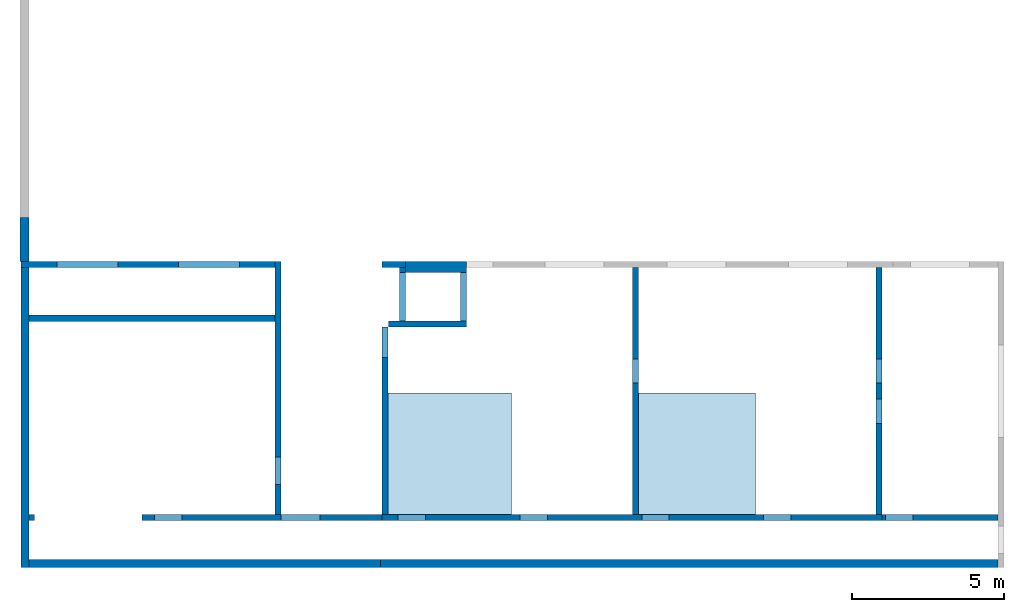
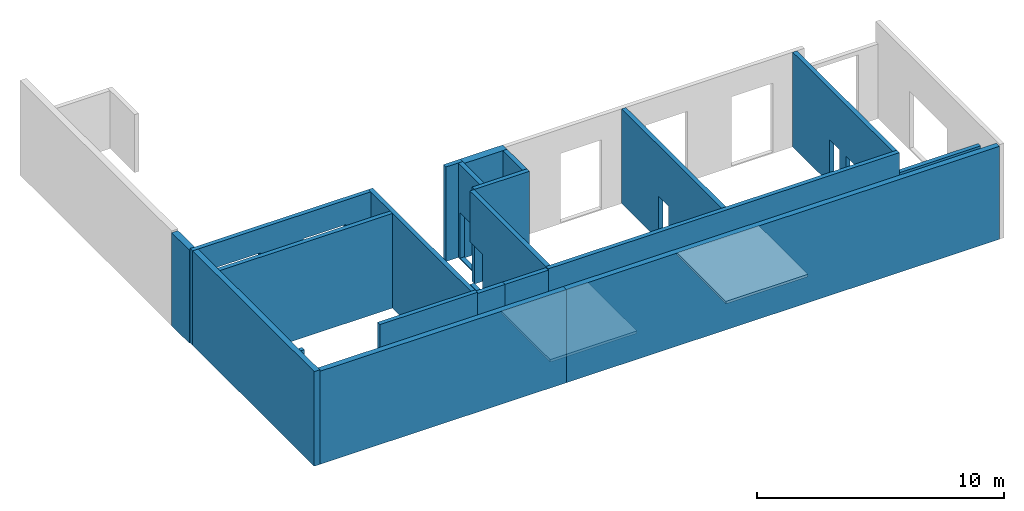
# One storey, part 1 of 2: 21 walls, 3 slabs, 23 openings.
"""IFC2X3 building model written with IfcOpenShell, lengths in metres."""

from ifc_helpers import new_model, entity, si_unit, converted_unit, derived_unit, direction, frame, frame_2d, origin, origin_2d_with_axis, place, context, subcontext, project, spatial, rectangle, extrude, material, layer, layer_set, layer_usage, type_object, element, save


model = new_model("IFC2X3")

# Units and contexts
model_context = context("Model", 3, precision=1e-05, world=origin(), true_north=direction((6.12303176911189e-17, 1.0)))
body_context = subcontext(model_context, "Body", "Model", "MODEL_VIEW")
ifc_project = project(units=[si_unit("LENGTHUNIT", "METRE"), si_unit("AREAUNIT", "SQUARE_METRE"), si_unit("VOLUMEUNIT", "CUBIC_METRE"), converted_unit("PLANEANGLEUNIT", "DEGREE", entity("IfcRatioMeasure", 0.0174532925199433), si_unit("PLANEANGLEUNIT", "RADIAN"), dimensions=[0, 0, 0, 0, 0, 0, 0]), si_unit("MASSUNIT", "GRAM", prefix="KILO"), derived_unit("MASSDENSITYUNIT", [(si_unit("MASSUNIT", "GRAM", prefix="KILO"), 1), (si_unit("LENGTHUNIT", "METRE"), -3)]), si_unit("TIMEUNIT", "SECOND"), si_unit("FREQUENCYUNIT", "HERTZ"), si_unit("THERMODYNAMICTEMPERATUREUNIT", "DEGREE_CELSIUS"), derived_unit("THERMALTRANSMITTANCEUNIT", [(si_unit("MASSUNIT", "GRAM", prefix="KILO"), 1), (si_unit("THERMODYNAMICTEMPERATUREUNIT", "KELVIN"), -1), (si_unit("TIMEUNIT", "SECOND"), -3)]), derived_unit("VOLUMETRICFLOWRATEUNIT", [(si_unit("LENGTHUNIT", "METRE"), 3), (si_unit("TIMEUNIT", "SECOND"), -1)]), si_unit("ELECTRICCURRENTUNIT", "AMPERE"), si_unit("ELECTRICVOLTAGEUNIT", "VOLT"), si_unit("POWERUNIT", "WATT"), si_unit("FORCEUNIT", "NEWTON"), si_unit("ILLUMINANCEUNIT", "LUX"), si_unit("LUMINOUSFLUXUNIT", "LUMEN"), si_unit("LUMINOUSINTENSITYUNIT", "CANDELA"), derived_unit("USERDEFINED", [(si_unit("MASSUNIT", "GRAM", prefix="KILO"), -1), (si_unit("LENGTHUNIT", "METRE"), -2), (si_unit("TIMEUNIT", "SECOND"), 3), (si_unit("LUMINOUSFLUXUNIT", "LUMEN"), 1)]), derived_unit("LINEARVELOCITYUNIT", [(si_unit("LENGTHUNIT", "METRE"), 1), (si_unit("TIMEUNIT", "SECOND"), -1)]), si_unit("PRESSUREUNIT", "PASCAL"), derived_unit("USERDEFINED", [(si_unit("LENGTHUNIT", "METRE"), -2), (si_unit("MASSUNIT", "GRAM", prefix="KILO"), 1), (si_unit("TIMEUNIT", "SECOND"), -2)])], contexts=[model_context])

# Site, building, storey
site_placement = place(None, origin())
site = spatial("IfcSite", under=ifc_project, at=site_placement, Name="Default", CompositionType="ELEMENT")
building_placement = place(site_placement, origin())
building = spatial("IfcBuilding", under=site, at=building_placement, CompositionType="ELEMENT")
storey_placement = place(building_placement, frame((0.0, 0.0, -4.68)))
storey = spatial("IfcBuildingStorey", under=building, at=storey_placement, Name="S02", CompositionType="ELEMENT", Elevation=-4.68)

# Slabs
ifc_material_1 = material(Name="Sol par défaut")
ifc_layer_1 = layer(ifc_material_1, 0.13)
ifc_layer_set_1 = layer_set([ifc_layer_1], Name="Floor:Dallage ép.13cm")
ifc_layer_usage_1 = layer_usage(ifc_layer_set_1, "AXIS3", "POSITIVE", 0.0)
slab_type_1 = type_object("IfcSlabType", Name="Floor:Dallage ép.13cm", PredefinedType="FLOOR", material=ifc_layer_set_1)
slab_1_placement = place(storey_placement, origin())
element("IfcSlab", 1, at=slab_1_placement, inside=storey, type_object=slab_type_1, material=ifc_layer_usage_1, Name="Floor:Dallage ép.13cm", ObjectType="Floor:Dallage ép.13cm", PredefinedType="FLOOR", context=body_context, shape_type="SweptSolid", body=[
    extrude(rectangle(XDim=3.99158167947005, YDim=4.06000000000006, at=frame_2d((0.0, -4.21884749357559e-15), x_axis=(1.0, 0.0))), frame((47.399743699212, -191.263860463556, 0.0), z_axis=(0.0, 0.0, -1.0), x_axis=(0.0, 1.0, 0.0)), (0.0, 0.0, 1.0), 0.13),
])
ifc_layer_usage_2 = layer_usage(ifc_layer_set_1, "AXIS3", "POSITIVE", 0.0)
slab_type_2 = type_object("IfcSlabType", Name="Floor:Dallage ép.13cm", PredefinedType="FLOOR", material=ifc_layer_set_1)
slab_2_placement = place(storey_placement, origin())
element("IfcSlab", 2, at=slab_2_placement, inside=storey, type_object=slab_type_2, material=ifc_layer_usage_2, Name="Floor:Dallage ép.13cm", ObjectType="Floor:Dallage ép.13cm", PredefinedType="FLOOR", context=body_context, shape_type="SweptSolid", body=[
    extrude(rectangle(XDim=3.99158152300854, YDim=3.84000000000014, at=frame_2d((0.0, -4.32986979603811e-15), x_axis=(1.0, 0.0))), frame((55.5097436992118, -191.263860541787, 0.0), z_axis=(0.0, 0.0, -1.0), x_axis=(0.0, 1.0, 0.0)), (0.0, 0.0, 1.0), 0.13),
])
ifc_layer_usage_3 = layer_usage(ifc_layer_set_1, "AXIS3", "POSITIVE", 0.0)
slab_type_3 = type_object("IfcSlabType", Name="Floor:Dallage ép.13cm", PredefinedType="FLOOR", material=ifc_layer_set_1)
slab_3_placement = place(storey_placement, origin())
element("IfcSlab", 3, at=slab_3_placement, inside=storey, type_object=slab_type_3, material=ifc_layer_usage_3, Name="Floor:Dallage ép.13cm", ObjectType="Floor:Dallage ép.13cm", PredefinedType="FLOOR", context=body_context, shape_type="SweptSolid", body=[
    extrude(rectangle(XDim=3.99158152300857, YDim=3.84000000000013, at=frame_2d((-1.73194791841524e-14, 0.0), x_axis=(1.0, 0.0))), frame((55.5097436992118, -191.263860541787, 0.0), z_axis=(0.0, 0.0, -1.0), x_axis=(0.0, 1.0, 0.0)), (0.0, 0.0, 1.0), 0.13),
])

# Wall, opening
ifc_material_2 = material(Name="Mur par défaut")
ifc_layer_2 = layer(ifc_material_2, 0.2)
ifc_layer_set_2 = layer_set([ifc_layer_2], Name="Basic Wall:Mur BA - 20cm")
ifc_layer_usage_4 = layer_usage(ifc_layer_set_2, "AXIS2", "NEGATIVE", 0.1)
wall_type_1 = type_object("IfcWallType", Name="Basic Wall:Mur BA - 20cm", PredefinedType="STANDARD", material=ifc_layer_set_2)
wall_1_placement = place(storey_placement, frame((41.7597436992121, -193.259651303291, 0.0), z_axis=(0.0, 0.0, 1.0), x_axis=(0.0, 1.0, 0.0)))
wall_1 = element("IfcWallStandardCase", 4, at=wall_1_placement, inside=storey, type_object=wall_type_1, material=ifc_layer_usage_4, Name="Basic Wall:Mur BA - 20cm", ObjectType="Basic Wall:Mur BA - 20cm", context=body_context, shape_type="SweptSolid", body=[
    extrude(rectangle(XDim=8.30316304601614, YDim=0.200000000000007, at=frame_2d((4.15158152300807, 2.15105711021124e-16), x_axis=(-1.0, 0.0))), origin(), (0.0, 0.0, 1.0), 4.68),
])
opening_1_placement = place(wall_1_placement, frame((193.259651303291, 41.7597436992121, 0.0600000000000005), z_axis=(0.0, 0.0, 1.0), x_axis=(0.0, -1.0, 0.0)))
element("IfcOpeningElement", 5, at=opening_1_placement, cuts=wall_1, Name="Basic Wall:Mur BA - 20cm", ObjectType="Opening", context=body_context, shape_type="SweptSolid", body=[
    extrude(rectangle(XDim=2.09999999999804, YDim=0.900000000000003, at=origin_2d_with_axis()), frame((43.1837436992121, -191.819651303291, 1.04999999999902), z_axis=(-1.0, 0.0, 0.0), x_axis=(0.0, 0.0, 1.0)), (0.0, 0.0, 1.0), 3.048),
])

# Wall, openings
ifc_layer_usage_5 = layer_usage(ifc_layer_set_2, "AXIS2", "NEGATIVE", 0.1)
wall_2_placement = place(storey_placement, frame((41.6597436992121, -185.056488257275, 0.0), z_axis=(0.0, 0.0, 1.0), x_axis=(-1.0, 0.0, 0.0)))
wall_2 = element("IfcWallStandardCase", 6, at=wall_2_placement, inside=storey, type_object=wall_type_1, material=ifc_layer_usage_5, Name="Basic Wall:Mur BA - 20cm", ObjectType="Basic Wall:Mur BA - 20cm", context=body_context, shape_type="SweptSolid", body=[
    extrude(rectangle(XDim=8.32999999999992, YDim=0.200000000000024, at=frame_2d((4.16499999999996, 5.62050406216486e-16), x_axis=(-1.0, 0.0))), origin(), (0.0, 0.0, 1.0), 4.68),
])
opening_2_placement = place(wall_2_placement, frame((41.6597436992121, -185.056488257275, 0.0600000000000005), z_axis=(0.0, 0.0, 1.0), x_axis=(-1.0, 0.0, 0.0)))
element("IfcOpeningElement", 7, at=opening_2_placement, cuts=wall_2, Name="Basic Wall:Mur BA - 20cm", ObjectType="Opening", context=body_context, shape_type="SweptSolid", body=[
    extrude(rectangle(XDim=3.40999999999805, YDim=2.0, at=frame_2d((-3.33066907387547e-16, -2.16493489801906e-15), x_axis=(1.0, 0.0))), frame((35.5006958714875, -183.632488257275, 1.70499999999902), z_axis=(0.0, -1.0, 0.0), x_axis=(0.0, 0.0, 1.0)), (0.0, 0.0, 1.0), 3.048),
])
opening_3_placement = place(wall_2_placement, frame((41.6597436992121, -185.056488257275, 0.0600000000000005), z_axis=(0.0, 0.0, 1.0), x_axis=(-1.0, 0.0, 0.0)))
element("IfcOpeningElement", 8, at=opening_3_placement, cuts=wall_2, Name="Basic Wall:Mur BA - 20cm", ObjectType="Opening", context=body_context, shape_type="SweptSolid", body=[
    extrude(rectangle(XDim=3.40999999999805, YDim=2.0, at=frame_2d((-3.33066907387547e-16, 0.0), x_axis=(1.0, 0.0))), frame((39.5006958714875, -183.632488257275, 1.70499999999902), z_axis=(0.0, -1.0, 0.0), x_axis=(0.0, 0.0, 1.0)), (0.0, 0.0, 1.0), 3.048),
])

# Wall, opening
ifc_layer_usage_6 = layer_usage(ifc_layer_set_2, "AXIS2", "NEGATIVE", 0.1)
wall_3_placement = place(storey_placement, frame((65.3897436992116, -193.359651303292, 0.0), z_axis=(0.0, 0.0, 1.0), x_axis=(-1.0, 0.0, 0.0)))
wall_3 = element("IfcWallStandardCase", 9, at=wall_3_placement, inside=storey, type_object=wall_type_1, material=ifc_layer_usage_6, Name="Basic Wall:Mur BA - 20cm", ObjectType="Basic Wall:Mur BA - 20cm", context=body_context, shape_type="SweptSolid", body=[
    extrude(rectangle(XDim=3.79999999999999, YDim=0.200000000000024, at=frame_2d((1.9, 6.21031004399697e-15), x_axis=(-1.0, 0.0))), origin(), (0.0, 0.0, 1.0), 3.68),
])
opening_4_placement = place(wall_3_placement, frame((65.3897436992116, -193.359651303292, 0.0600000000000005), z_axis=(0.0, 0.0, 1.0), x_axis=(-1.0, 0.0, 0.0)))
element("IfcOpeningElement", 10, at=opening_4_placement, cuts=wall_3, Name="Basic Wall:Mur BA - 20cm", ObjectType="Opening", context=body_context, shape_type="SweptSolid", body=[
    extrude(rectangle(XDim=2.09999999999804, YDim=0.900000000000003, at=origin_2d_with_axis()), frame((62.1497436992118, -191.935651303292, 1.04999999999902), z_axis=(0.0, -1.0, 0.0), x_axis=(0.0, 0.0, 1.0)), (0.0, 0.0, 1.0), 3.048),
])

# Walls
ifc_layer_usage_7 = layer_usage(ifc_layer_set_2, "AXIS2", "NEGATIVE", 0.1)
wall_4_placement = place(storey_placement, frame((45.1697436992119, -193.359651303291, 0.0), z_axis=(0.0, 0.0, 1.0), x_axis=(-1.0, 0.0, 0.0)))
element("IfcWallStandardCase", 11, at=wall_4_placement, inside=storey, type_object=wall_type_1, material=ifc_layer_usage_7, Name="Basic Wall:Mur BA - 20cm", ObjectType="Basic Wall:Mur BA - 20cm", context=body_context, shape_type="SweptSolid", body=[
    extrude(rectangle(XDim=2.02999999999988, YDim=0.200000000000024, at=frame_2d((1.01499999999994, 3.31679128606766e-15), x_axis=(-1.0, 0.0))), origin(), (0.0, 0.0, 1.0), 4.62),
])
ifc_layer_usage_8 = layer_usage(ifc_layer_set_2, "AXIS2", "NEGATIVE", 0.1)
wall_5_placement = place(storey_placement, frame((41.6597436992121, -186.814488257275, 0.0), z_axis=(0.0, 0.0, 1.0), x_axis=(-1.0, 0.0, 0.0)))
element("IfcWallStandardCase", 12, at=wall_5_placement, inside=storey, type_object=wall_type_1, material=ifc_layer_usage_8, Name="Basic Wall:Mur BA - 20cm", ObjectType="Basic Wall:Mur BA - 20cm", context=body_context, shape_type="SweptSolid", body=[
    extrude(rectangle(XDim=8.06999999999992, YDim=0.200000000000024, at=frame_2d((4.03499999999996, 0.0), x_axis=(-1.0, 0.0))), origin(), (0.0, 0.0, 1.0), 4.68),
])

# Wall, opening
ifc_layer_usage_9 = layer_usage(ifc_layer_set_2, "AXIS2", "NEGATIVE", 0.1)
wall_6_placement = place(storey_placement, frame((45.9497436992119, -185.056488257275, 0.0), z_axis=(0.0, 0.0, 1.0), x_axis=(-1.0, 0.0, 0.0)))
wall_6 = element("IfcWallStandardCase", 13, at=wall_6_placement, inside=storey, type_object=wall_type_1, material=ifc_layer_usage_9, Name="Basic Wall:Mur BA - 20cm", ObjectType="Basic Wall:Mur BA - 20cm", context=body_context, shape_type="SweptSolid", body=[
    extrude(rectangle(XDim=0.779999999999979, YDim=0.200000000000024, at=frame_2d((0.389999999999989, 1.346145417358e-15), x_axis=(-1.0, 0.0))), origin(), (0.0, 0.0, 1.0), 4.68),
])
opening_5_placement = place(wall_6_placement, origin())
element("IfcOpeningElement", 14, at=opening_5_placement, cuts=wall_6, Name="Basic Wall:Mur BA - 20cm", ObjectType="Opening", context=body_context, shape_type="SweptSolid", body=[
    extrude(rectangle(XDim=2.49999999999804, YDim=0.220000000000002, at=frame_2d((0.0, 0.0), x_axis=(0.0, 1.0))), frame((0.669999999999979, 0.0999999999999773, 1.30999999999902), z_axis=(0.0, 1.0, 0.0), x_axis=(-1.0, 0.0, 0.0)), (0.0, 0.0, 1.0), 1.74999999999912),
])

# Wall, openings
ifc_layer_usage_10 = layer_usage(ifc_layer_set_2, "AXIS2", "NEGATIVE", 0.1)
wall_7_placement = place(storey_placement, frame((45.8497436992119, -185.156488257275, 0.0), z_axis=(0.0, 0.0, 1.0), x_axis=(0.0, -1.0, 0.0)))
wall_7 = element("IfcWallStandardCase", 15, at=wall_7_placement, inside=storey, type_object=wall_type_1, material=ifc_layer_usage_10, Name="Basic Wall:Mur BA - 20cm", ObjectType="Basic Wall:Mur BA - 20cm", context=body_context, shape_type="SweptSolid", body=[
    extrude(rectangle(XDim=1.74999999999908, YDim=0.200000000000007, at=frame_2d((0.874999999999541, 0.0), x_axis=(-1.0, 0.0))), origin(), (0.0, 0.0, 1.0), 4.68),
])
opening_6_placement = place(wall_7_placement, origin())
element("IfcOpeningElement", 16, at=opening_6_placement, cuts=wall_7, Name="Basic Wall:Mur BA - 20cm", ObjectType="Opening", context=body_context, shape_type="SweptSolid", body=[
    extrude(rectangle(XDim=2.24999999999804, YDim=1.59999999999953, at=frame_2d((1.73194791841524e-14, 0.0), x_axis=(0.0, 1.0))), frame((0.949999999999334, -1.624, 5.80499999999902), z_axis=(0.0, 1.0, 0.0), x_axis=(-1.0, 0.0, 0.0)), (0.0, 0.0, 1.0), 3.048),
])
opening_7_placement = place(wall_7_placement, frame((-185.156488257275, -45.8497436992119, 0.0600000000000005), z_axis=(0.0, 0.0, 1.0), x_axis=(0.0, 1.0, 0.0)))
element("IfcOpeningElement", 17, at=opening_7_placement, cuts=wall_7, Name="Basic Wall:Mur BA - 20cm", ObjectType="Opening", context=body_context, shape_type="SweptSolid", body=[
    extrude(rectangle(XDim=2.24999999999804, YDim=1.59999999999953, at=frame_2d((1.73194791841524e-14, -3.33066907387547e-16), x_axis=(0.0, 1.0))), frame((44.2257436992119, -186.106488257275, 1.12499999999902), z_axis=(1.0, 0.0, 0.0), x_axis=(0.0, 1.0, 0.0)), (0.0, 0.0, 1.0), 3.048),
])

ifc_layer_usage_11 = layer_usage(ifc_layer_set_2, "AXIS2", "NEGATIVE", 0.1)
wall_8_placement = place(storey_placement, frame((45.389743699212, -187.006488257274, 0.0)))
wall_8 = element("IfcWallStandardCase", 18, at=wall_8_placement, inside=storey, type_object=wall_type_1, material=ifc_layer_usage_11, Name="Basic Wall:Mur BA - 20cm", ObjectType="Basic Wall:Mur BA - 20cm", context=body_context, shape_type="SweptSolid", body=[
    extrude(rectangle(XDim=2.55999999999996, YDim=0.200000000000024, at=frame_2d((1.27999999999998, 0.0), x_axis=(-1.0, 0.0))), origin(), (0.0, 0.0, 1.0), 4.68),
])
opening_8_placement = place(wall_8_placement, origin())
element("IfcOpeningElement", 19, at=opening_8_placement, cuts=wall_8, Name="Basic Wall:Mur BA - 20cm", ObjectType="Opening", context=body_context, shape_type="SweptSolid", body=[
    extrude(rectangle(XDim=2.24999999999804, YDim=0.199999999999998, at=frame_2d((-4.32986979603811e-15, -3.33066907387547e-16), x_axis=(0.0, 1.0))), frame((0.459999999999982, 0.100000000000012, 1.18499999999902), z_axis=(0.0, 1.0, 0.0), x_axis=(1.0, 0.0, 0.0)), (0.0, 0.0, 1.0), 1.59999999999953),
])
opening_9_placement = place(wall_8_placement, origin())
element("IfcOpeningElement", 20, at=opening_9_placement, cuts=wall_8, Name="Basic Wall:Mur BA - 20cm", ObjectType="Opening", context=body_context, shape_type="SweptSolid", body=[
    extrude(rectangle(XDim=2.24999999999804, YDim=0.199999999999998, at=frame_2d((-4.32986979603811e-15, 0.0), x_axis=(0.0, 1.0))), frame((0.459999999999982, 0.100000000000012, 5.80499999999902), z_axis=(0.0, 1.0, 0.0), x_axis=(1.0, 0.0, 0.0)), (0.0, 0.0, 1.0), 1.59999999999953),
])
opening_10_placement = place(wall_8_placement, origin())
element("IfcOpeningElement", 21, at=opening_10_placement, cuts=wall_8, Name="Basic Wall:Mur BA - 20cm", ObjectType="Opening", context=body_context, shape_type="SweptSolid", body=[
    extrude(rectangle(XDim=2.24999999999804, YDim=0.199999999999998, at=frame_2d((-4.32986979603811e-15, -3.33066907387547e-16), x_axis=(0.0, 1.0))), frame((2.45999999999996, 0.100000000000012, 1.18499999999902), z_axis=(0.0, 1.0, 0.0), x_axis=(-1.0, 0.0, 0.0)), (0.0, 0.0, 1.0), 1.59999999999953),
])

# Wall, opening
ifc_layer_usage_12 = layer_usage(ifc_layer_set_2, "AXIS2", "NEGATIVE", 0.1)
wall_9_placement = place(storey_placement, frame((47.8497436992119, -186.906488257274, 0.0), z_axis=(0.0, 0.0, 1.0), x_axis=(0.0, 1.0, 0.0)))
wall_9 = element("IfcWallStandardCase", 22, at=wall_9_placement, inside=storey, type_object=wall_type_1, material=ifc_layer_usage_12, Name="Basic Wall:Mur BA - 20cm", ObjectType="Basic Wall:Mur BA - 20cm", context=body_context, shape_type="SweptSolid", body=[
    extrude(rectangle(XDim=1.59999999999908, YDim=0.200000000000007, at=frame_2d((0.799999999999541, 0.0), x_axis=(-1.0, 0.0))), origin(), (0.0, 0.0, 1.0), 4.68),
])
opening_11_placement = place(wall_9_placement, frame((186.906488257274, 47.8497436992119, 0.0600000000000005), z_axis=(0.0, 0.0, 1.0), x_axis=(0.0, -1.0, 0.0)))
element("IfcOpeningElement", 23, at=opening_11_placement, cuts=wall_9, Name="Basic Wall:Mur BA - 20cm", ObjectType="Opening", context=body_context, shape_type="SweptSolid", body=[
    extrude(rectangle(XDim=2.24999999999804, YDim=1.59999999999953, at=frame_2d((-1.73194791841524e-14, -3.33066907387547e-16), x_axis=(0.0, 1.0))), frame((49.4737436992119, -186.106488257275, 1.12499999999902), z_axis=(-1.0, 0.0, 0.0), x_axis=(0.0, -1.0, 0.0)), (0.0, 0.0, 1.0), 3.048),
])

# Wall, openings
ifc_layer_usage_13 = layer_usage(ifc_layer_set_2, "AXIS2", "NEGATIVE", 0.1)
wall_10_placement = place(storey_placement, frame((61.4897436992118, -193.259651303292, 0.0), z_axis=(0.0, 0.0, 1.0), x_axis=(0.0, 1.0, 0.0)))
wall_10 = element("IfcWallStandardCase", 24, at=wall_10_placement, inside=storey, type_object=wall_type_1, material=ifc_layer_usage_13, Name="Basic Wall:Mur BA - 20cm", ObjectType="Basic Wall:Mur BA - 20cm", context=body_context, shape_type="SweptSolid", body=[
    extrude(rectangle(XDim=8.10316304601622, YDim=0.200000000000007, at=frame_2d((4.05158152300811, 0.0), x_axis=(-1.0, 0.0))), origin(), (0.0, 0.0, 1.0), 4.68),
])
opening_12_placement = place(wall_10_placement, frame((193.259651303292, 61.4897436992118, 0.0600000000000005), z_axis=(0.0, 0.0, 1.0), x_axis=(0.0, -1.0, 0.0)))
element("IfcOpeningElement", 25, at=opening_12_placement, cuts=wall_10, Name="Basic Wall:Mur BA - 20cm", ObjectType="Opening", context=body_context, shape_type="SweptSolid", body=[
    extrude(rectangle(XDim=2.09999999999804, YDim=0.799999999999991, at=frame_2d((0.0, -1.73194791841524e-14), x_axis=(1.0, 0.0))), frame((62.9137436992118, -188.548069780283, 1.04999999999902), z_axis=(-1.0, 0.0, 0.0), x_axis=(0.0, 0.0, 1.0)), (0.0, 0.0, 1.0), 3.048),
])
opening_13_placement = place(wall_10_placement, frame((193.259651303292, 61.4897436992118, 0.0600000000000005), z_axis=(0.0, 0.0, 1.0), x_axis=(0.0, -1.0, 0.0)))
element("IfcOpeningElement", 26, at=opening_13_placement, cuts=wall_10, Name="Basic Wall:Mur BA - 20cm", ObjectType="Opening", context=body_context, shape_type="SweptSolid", body=[
    extrude(rectangle(XDim=2.09999999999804, YDim=0.799999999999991, at=frame_2d((0.0, 1.73194791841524e-14), x_axis=(1.0, 0.0))), frame((62.9137436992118, -189.868069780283, 1.04999999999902), z_axis=(-1.0, 0.0, 0.0), x_axis=(0.0, 0.0, 1.0)), (0.0, 0.0, 1.0), 3.048),
])

# Wall, opening
ifc_layer_usage_14 = layer_usage(ifc_layer_set_2, "AXIS2", "NEGATIVE", 0.1)
wall_11_placement = place(storey_placement, frame((53.4897436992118, -193.259651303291, 0.0), z_axis=(0.0, 0.0, 1.0), x_axis=(0.0, 1.0, 0.0)))
wall_11 = element("IfcWallStandardCase", 27, at=wall_11_placement, inside=storey, type_object=wall_type_1, material=ifc_layer_usage_14, Name="Basic Wall:Mur BA - 20cm", ObjectType="Basic Wall:Mur BA - 20cm", context=body_context, shape_type="SweptSolid", body=[
    extrude(rectangle(XDim=8.10316304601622, YDim=0.200000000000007, at=frame_2d((4.05158152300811, 0.0), x_axis=(-1.0, 0.0))), origin(), (0.0, 0.0, 1.0), 4.68),
])
opening_14_placement = place(wall_11_placement, frame((193.259651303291, 53.4897436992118, 0.0600000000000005), z_axis=(0.0, 0.0, 1.0), x_axis=(0.0, -1.0, 0.0)))
element("IfcOpeningElement", 28, at=opening_14_placement, cuts=wall_11, Name="Basic Wall:Mur BA - 20cm", ObjectType="Opening", context=body_context, shape_type="SweptSolid", body=[
    extrude(rectangle(XDim=2.09999999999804, YDim=0.799999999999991, at=frame_2d((0.0, 1.73194791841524e-14), x_axis=(1.0, 0.0))), frame((54.9137436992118, -188.548069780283, 1.04999999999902), z_axis=(-1.0, 0.0, 0.0), x_axis=(0.0, 0.0, 1.0)), (0.0, 0.0, 1.0), 3.048),
])

# Wall, openings
ifc_layer_usage_15 = layer_usage(ifc_layer_set_2, "AXIS2", "NEGATIVE", 0.1)
wall_12_placement = place(storey_placement, frame((61.5897436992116, -193.359651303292, 0.0), z_axis=(0.0, 0.0, 1.0), x_axis=(-1.0, 0.0, 0.0)))
wall_12 = element("IfcWallStandardCase", 29, at=wall_12_placement, inside=storey, type_object=wall_type_1, material=ifc_layer_usage_15, Name="Basic Wall:Mur BA - 20cm", ObjectType="Basic Wall:Mur BA - 20cm", context=body_context, shape_type="SweptSolid", body=[
    extrude(rectangle(XDim=16.4199999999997, YDim=0.200000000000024, at=frame_2d((8.20999999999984, -7.81319453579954e-15), x_axis=(-1.0, 0.0))), origin(), (0.0, 0.0, 1.0), 4.68),
])
opening_15_placement = place(wall_12_placement, frame((61.5897436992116, -193.359651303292, 0.0600000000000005), z_axis=(0.0, 0.0, 1.0), x_axis=(-1.0, 0.0, 0.0)))
element("IfcOpeningElement", 30, at=opening_15_placement, cuts=wall_12, Name="Basic Wall:Mur BA - 20cm", ObjectType="Opening", context=body_context, shape_type="SweptSolid", body=[
    extrude(rectangle(XDim=2.09999999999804, YDim=0.900000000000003, at=origin_2d_with_axis()), frame((58.1497436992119, -191.935651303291, 1.04999999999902), z_axis=(0.0, -1.0, 0.0), x_axis=(0.0, 0.0, 1.0)), (0.0, 0.0, 1.0), 3.048),
])
opening_16_placement = place(wall_12_placement, frame((61.5897436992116, -193.359651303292, 0.0600000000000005), z_axis=(0.0, 0.0, 1.0), x_axis=(-1.0, 0.0, 0.0)))
element("IfcOpeningElement", 31, at=opening_16_placement, cuts=wall_12, Name="Basic Wall:Mur BA - 20cm", ObjectType="Opening", context=body_context, shape_type="SweptSolid", body=[
    extrude(rectangle(XDim=2.09999999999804, YDim=0.900000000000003, at=origin_2d_with_axis()), frame((54.1497436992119, -191.935651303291, 1.04999999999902), z_axis=(0.0, -1.0, 0.0), x_axis=(0.0, 0.0, 1.0)), (0.0, 0.0, 1.0), 3.048),
])
opening_17_placement = place(wall_12_placement, frame((61.5897436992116, -193.359651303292, 0.0600000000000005), z_axis=(0.0, 0.0, 1.0), x_axis=(-1.0, 0.0, 0.0)))
element("IfcOpeningElement", 32, at=opening_17_placement, cuts=wall_12, Name="Basic Wall:Mur BA - 20cm", ObjectType="Opening", context=body_context, shape_type="SweptSolid", body=[
    extrude(rectangle(XDim=2.09999999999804, YDim=0.900000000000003, at=origin_2d_with_axis()), frame((50.149743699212, -191.935651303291, 1.04999999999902), z_axis=(0.0, -1.0, 0.0), x_axis=(0.0, 0.0, 1.0)), (0.0, 0.0, 1.0), 3.048),
])
opening_18_placement = place(wall_12_placement, frame((61.5897436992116, -193.359651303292, 0.0600000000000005), z_axis=(0.0, 0.0, 1.0), x_axis=(-1.0, 0.0, 0.0)))
element("IfcOpeningElement", 33, at=opening_18_placement, cuts=wall_12, Name="Basic Wall:Mur BA - 20cm", ObjectType="Opening", context=body_context, shape_type="SweptSolid", body=[
    extrude(rectangle(XDim=2.09999999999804, YDim=0.900000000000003, at=origin_2d_with_axis()), frame((46.149743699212, -191.935651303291, 1.04999999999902), z_axis=(0.0, -1.0, 0.0), x_axis=(0.0, 0.0, 1.0)), (0.0, 0.0, 1.0), 3.048),
])

# Wall, opening
ifc_layer_usage_16 = layer_usage(ifc_layer_set_2, "AXIS2", "NEGATIVE", 0.1)
wall_13_placement = place(storey_placement, frame((45.269743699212, -187.106488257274, 0.0), z_axis=(0.0, 0.0, 1.0), x_axis=(0.0, -1.0, 0.0)))
wall_13 = element("IfcWallStandardCase", 34, at=wall_13_placement, inside=storey, type_object=wall_type_1, material=ifc_layer_usage_16, Name="Basic Wall:Mur BA - 20cm", ObjectType="Basic Wall:Mur BA - 20cm", context=body_context, shape_type="SweptSolid", body=[
    extrude(rectangle(XDim=6.15316304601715, YDim=0.200000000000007, at=frame_2d((3.07658152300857, -2.08166817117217e-15), x_axis=(-1.0, 0.0))), origin(), (0.0, 0.0, 1.0), 4.68),
])
opening_19_placement = place(wall_13_placement, frame((-187.106488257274, -45.269743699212, 0.0600000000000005), z_axis=(0.0, 0.0, 1.0), x_axis=(0.0, 1.0, 0.0)))
element("IfcOpeningElement", 35, at=opening_19_placement, cuts=wall_13, Name="Basic Wall:Mur BA - 20cm", ObjectType="Opening", context=body_context, shape_type="SweptSolid", body=[
    extrude(rectangle(XDim=2.09999999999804, YDim=1.00000000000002, at=frame_2d((-1.73472347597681e-14, 0.0), x_axis=(0.0, 1.0))), frame((43.6457436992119, -187.606488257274, 1.04999999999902), z_axis=(1.0, 0.0, 0.0), x_axis=(0.0, 1.0, 0.0)), (0.0, 0.0, 1.0), 3.048),
])

ifc_layer_usage_17 = layer_usage(ifc_layer_set_2, "AXIS2", "NEGATIVE", 0.1)
wall_14_placement = place(storey_placement, frame((41.8597436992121, -193.359651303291, 0.0), z_axis=(0.0, 0.0, 1.0), x_axis=(-1.0, 0.0, 0.0)))
wall_14 = element("IfcWallStandardCase", 36, at=wall_14_placement, inside=storey, type_object=wall_type_1, material=ifc_layer_usage_17, Name="Basic Wall:Mur BA - 20cm", ObjectType="Basic Wall:Mur BA - 20cm", context=body_context, shape_type="SweptSolid", body=[
    extrude(rectangle(XDim=4.56499999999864, YDim=0.200000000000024, at=frame_2d((2.28249999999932, -9.86016823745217e-15), x_axis=(-1.0, 0.0))), origin(), (0.0, 0.0, 1.0), 4.68),
])
opening_20_placement = place(wall_14_placement, frame((41.8597436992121, -193.359651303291, 0.0600000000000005), z_axis=(0.0, 0.0, 1.0), x_axis=(-1.0, 0.0, 0.0)))
element("IfcOpeningElement", 37, at=opening_20_placement, cuts=wall_14, Name="Basic Wall:Mur BA - 20cm", ObjectType="Opening", context=body_context, shape_type="SweptSolid", body=[
    extrude(rectangle(XDim=2.09999999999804, YDim=0.899999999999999, at=frame_2d((0.0, 2.16493489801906e-15), x_axis=(1.0, 0.0))), frame((38.1497436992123, -191.935651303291, 1.04999999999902), z_axis=(0.0, -1.0, 0.0), x_axis=(0.0, 0.0, 1.0)), (0.0, 0.0, 1.0), 3.048),
])

# Walls
ifc_layer_usage_18 = layer_usage(ifc_layer_set_2, "AXIS2", "NEGATIVE", 0.1)
wall_15_placement = place(storey_placement, frame((33.7627436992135, -193.359651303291, 0.0), z_axis=(0.0, 0.0, 1.0), x_axis=(-1.0, 0.0, 0.0)))
element("IfcWallStandardCase", 38, at=wall_15_placement, inside=storey, type_object=wall_type_1, material=ifc_layer_usage_18, Name="Basic Wall:Mur BA - 20cm", ObjectType="Basic Wall:Mur BA - 20cm", context=body_context, shape_type="SweptSolid", body=[
    extrude(rectangle(XDim=0.173000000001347, YDim=0.200000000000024, at=frame_2d((0.0865000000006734, 2.84494650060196e-16), x_axis=(-1.0, 0.0))), origin(), (0.0, 0.0, 1.0), 4.68),
])
ifc_layer_usage_19 = layer_usage(ifc_layer_set_2, "AXIS2", "NEGATIVE", 0.1)
wall_16_placement = place(storey_placement, frame((43.1397436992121, -193.359651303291, 2.16), z_axis=(0.0, 0.0, 1.0), x_axis=(-1.0, 0.0, 0.0)))
element("IfcWallStandardCase", 39, at=wall_16_placement, inside=storey, type_object=wall_type_1, material=ifc_layer_usage_19, Name="Basic Wall:Mur BA - 20cm", ObjectType="Basic Wall:Mur BA - 20cm", context=body_context, shape_type="SweptSolid", body=[
    extrude(rectangle(XDim=1.28, YDim=0.200000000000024, at=frame_2d((0.640000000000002, 2.09554595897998e-15), x_axis=(-1.0, 0.0))), origin(), (0.0, 0.0, 1.0), 2.46),
])
ifc_layer_3 = layer(ifc_material_2, 0.26)
ifc_layer_set_3 = layer_set([ifc_layer_3], Name="Basic Wall:Mur BA Contre terre - 26cm")
ifc_layer_usage_20 = layer_usage(ifc_layer_set_3, "AXIS2", "NEGATIVE", 0.13)
wall_type_2 = type_object("IfcWallType", Name="Basic Wall:Mur BA Contre terre - 26cm", PredefinedType="STANDARD", material=ifc_layer_set_3)
wall_17_placement = place(storey_placement, frame((33.4597436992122, -185.156488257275, 0.0), z_axis=(0.0, 0.0, 1.0), x_axis=(0.0, -1.0, 0.0)))
element("IfcWallStandardCase", 40, at=wall_17_placement, inside=storey, type_object=wall_type_2, material=ifc_layer_usage_20, Name="Basic Wall:Mur BA Contre terre - 26cm", ObjectType="Basic Wall:Mur BA Contre terre - 26cm", context=body_context, shape_type="SweptSolid", body=[
    extrude(rectangle(XDim=9.84483194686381, YDim=0.260000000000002, at=frame_2d((4.9224159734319, 8.32667268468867e-17), x_axis=(-1.0, 0.0))), origin(), (0.0, 0.0, 1.0), 4.68),
])
ifc_layer_usage_21 = layer_usage(ifc_layer_set_3, "AXIS2", "NEGATIVE", 0.13)
wall_18_placement = place(storey_placement, frame((33.5897436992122, -194.871320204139, 0.0)))
element("IfcWallStandardCase", 41, at=wall_18_placement, inside=storey, type_object=wall_type_2, material=ifc_layer_usage_21, Name="Basic Wall:Mur BA Contre terre - 26cm", ObjectType="Basic Wall:Mur BA Contre terre - 26cm", context=body_context, shape_type="SweptSolid", body=[
    extrude(rectangle(XDim=11.5399999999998, YDim=0.26000000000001, at=frame_2d((5.76999999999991, 1.5404344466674e-15), x_axis=(-1.0, 0.0))), origin(), (0.0, 0.0, 1.0), 4.6),
])
ifc_layer_usage_22 = layer_usage(ifc_layer_set_3, "AXIS2", "NEGATIVE", 0.13)
wall_19_placement = place(storey_placement, frame((45.129743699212, -194.871320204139, 0.0)))
element("IfcWallStandardCase", 42, at=wall_19_placement, inside=storey, type_object=wall_type_2, material=ifc_layer_usage_22, Name="Basic Wall:Mur BA Contre terre - 26cm", ObjectType="Basic Wall:Mur BA Contre terre - 26cm", context=body_context, shape_type="SweptSolid", body=[
    extrude(rectangle(XDim=20.2599999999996, YDim=0.26000000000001, at=frame_2d((10.1299999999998, -1.5404344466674e-15), x_axis=(-1.0, 0.0))), origin(), (0.0, 0.0, 1.0), 4.6),
])

# Wall, openings
ifc_layer_4 = layer(ifc_material_2, 0.35)
ifc_layer_set_4 = layer_set([ifc_layer_4], Name="Basic Wall:Mur BA - ASC 35cm")
ifc_layer_usage_23 = layer_usage(ifc_layer_set_4, "AXIS2", "NEGATIVE", 0.175)
wall_type_3 = type_object("IfcWallType", Name="Basic Wall:Mur BA - ASC 35cm", PredefinedType="STANDARD", material=ifc_layer_set_4)
wall_20_placement = place(storey_placement, frame((47.9497436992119, -185.131488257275, 0.0), z_axis=(0.0, 0.0, 1.0), x_axis=(-1.0, 0.0, 0.0)))
wall_20 = element("IfcWallStandardCase", 43, at=wall_20_placement, inside=storey, type_object=wall_type_3, material=ifc_layer_usage_23, Name="Basic Wall:Mur BA - ASC 35cm", ObjectType="Basic Wall:Mur BA - ASC 35cm", context=body_context, shape_type="SweptSolid", body=[
    extrude(rectangle(XDim=1.99999999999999, YDim=0.350000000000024, at=frame_2d((0.999999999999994, 3.4555691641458e-15), x_axis=(-1.0, 0.0))), origin(), (0.0, 0.0, 1.0), 4.68),
])
opening_21_placement = place(wall_20_placement, origin())
element("IfcOpeningElement", 44, at=opening_21_placement, cuts=wall_20, Name="Basic Wall:Mur BA - ASC 35cm", ObjectType="Opening", context=body_context, shape_type="SweptSolid", body=[
    extrude(rectangle(XDim=2.24999999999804, YDim=0.199999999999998, at=frame_2d((-4.32986979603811e-15, -3.33066907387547e-16), x_axis=(0.0, 1.0))), frame((0.100000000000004, 0.174999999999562, 1.18499999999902), z_axis=(0.0, 1.0, 0.0), x_axis=(1.0, 0.0, 0.0)), (0.0, 0.0, 1.0), 1.59999999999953),
])
opening_22_placement = place(wall_20_placement, origin())
element("IfcOpeningElement", 45, at=opening_22_placement, cuts=wall_20, Name="Basic Wall:Mur BA - ASC 35cm", ObjectType="Opening", context=body_context, shape_type="SweptSolid", body=[
    extrude(rectangle(XDim=2.24999999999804, YDim=0.199999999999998, at=frame_2d((-4.32986979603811e-15, -3.33066907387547e-16), x_axis=(0.0, 1.0))), frame((2.09999999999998, 0.174999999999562, 1.18499999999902), z_axis=(0.0, 1.0, 0.0), x_axis=(-1.0, 0.0, 0.0)), (0.0, 0.0, 1.0), 1.59999999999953),
])
opening_23_placement = place(wall_20_placement, origin())
element("IfcOpeningElement", 46, at=opening_23_placement, cuts=wall_20, Name="Basic Wall:Mur BA - ASC 35cm", ObjectType="Opening", context=body_context, shape_type="SweptSolid", body=[
    extrude(rectangle(XDim=2.24999999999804, YDim=0.199999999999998, at=frame_2d((-4.32986979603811e-15, 0.0), x_axis=(0.0, 1.0))), frame((2.09999999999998, 0.174999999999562, 5.80499999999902), z_axis=(0.0, 1.0, 0.0), x_axis=(-1.0, 0.0, 0.0)), (0.0, 0.0, 1.0), 1.59999999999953),
])

# Wall
ifc_layer_5 = layer(ifc_material_2, 0.3)
ifc_layer_set_5 = layer_set([ifc_layer_5], Name="Basic Wall:Mur BA Contre terre - 30cm")
ifc_layer_usage_24 = layer_usage(ifc_layer_set_5, "AXIS2", "NEGATIVE", 0.15)
wall_type_4 = type_object("IfcWallType", Name="Basic Wall:Mur BA Contre terre - 30cm", PredefinedType="STANDARD", material=ifc_layer_set_5)
wall_21_placement = place(storey_placement, frame((33.4397436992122, -183.514819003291, 0.0), z_axis=(0.0, 0.0, 1.0), x_axis=(0.0, -1.0, 0.0)))
element("IfcWallStandardCase", 47, at=wall_21_placement, inside=storey, type_object=wall_type_4, material=ifc_layer_usage_24, Name="Basic Wall:Mur BA Contre terre - 30cm", ObjectType="Basic Wall:Mur BA Contre terre - 30cm", context=body_context, shape_type="SweptSolid", body=[
    extrude(rectangle(XDim=1.44166925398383, YDim=0.300000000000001, at=frame_2d((0.720834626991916, -1.02695629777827e-15), x_axis=(-1.0, 0.0))), origin(), (0.0, 0.0, 1.0), 4.6),
])

save(model, "model.ifc")
